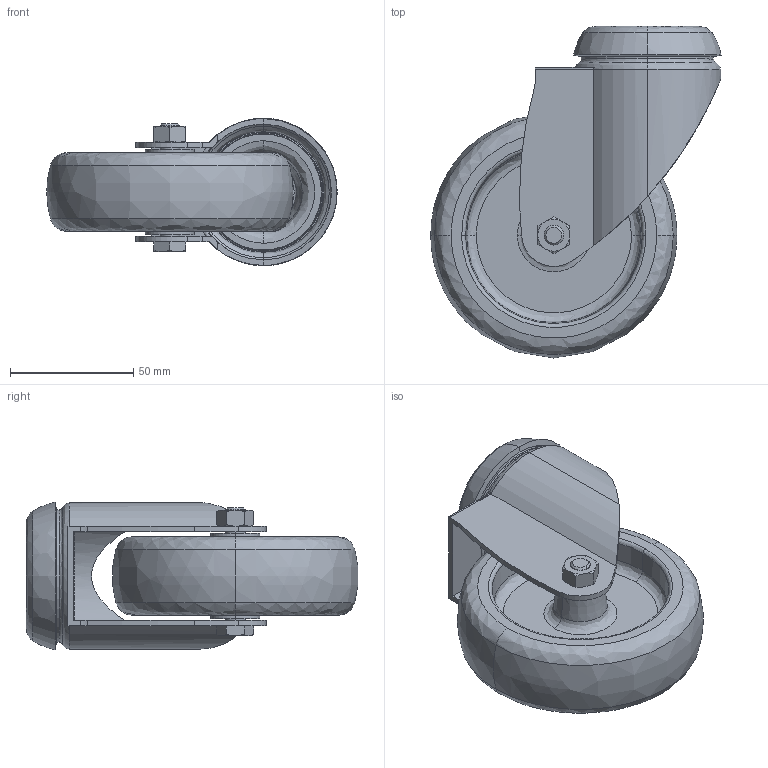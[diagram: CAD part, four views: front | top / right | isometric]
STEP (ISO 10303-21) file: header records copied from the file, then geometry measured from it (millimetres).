
FILE_DESCRIPTION (( 'STEP AP203' ), '1' );
FILE_NAME ('502126_Lenkrolle Ø100 mit Rückenloch Ø13.step', '2022-07-29T06:27:42', ( '' ), ( '' ), 'SwSTEP 2.0', 'SolidWorks 2021', '' );
FILE_SCHEMA (( 'CONFIG_CONTROL_DESIGN' ));
Length unit declared in the file: millimetre
Products named in the file (1): 502126_Lenkrolle Ø100 mit Rückenloch Ø13
Bounding box: 118 x 134.83 x 59.99 mm (x, y, z)
Volume: 195407.8 mm3; surface area: 68611.8 mm2
Topology: 2 solids, 2 shells, 175 faces, 414 edges, 257 vertices
Faces by surface type: bspline 56, cylinder 41, plane 41, cone 37
Entity records: 8344 total; most frequent: CARTESIAN_POINT 4467, ORIENTED_EDGE 828, DIRECTION 769, EDGE_CURVE 414, AXIS2_PLACEMENT_3D 333, VERTEX_POINT 257, CIRCLE 213, EDGE_LOOP 195
